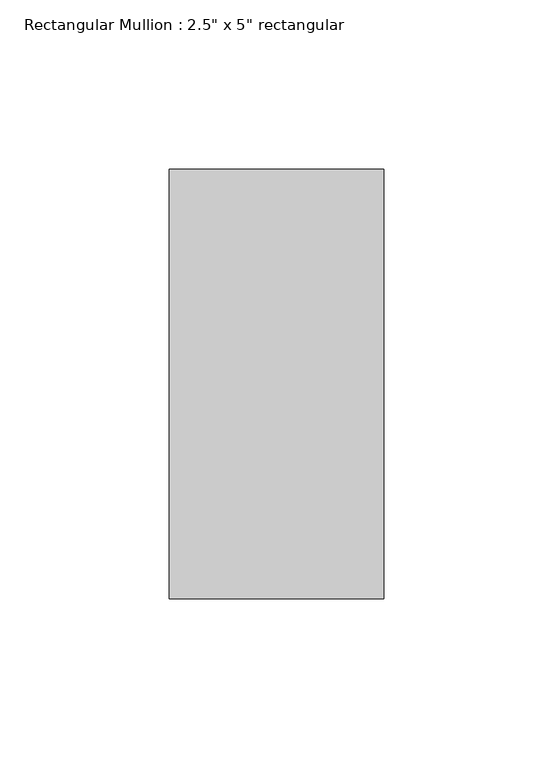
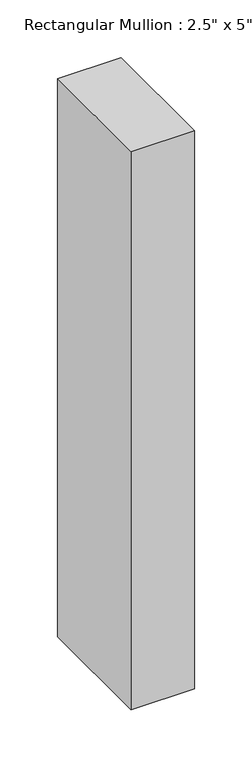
"""IFC4 building model written with IfcOpenShell, lengths in millimetres: member geometry."""

from ifc_helpers import new_model, si_unit, frame, origin, place, context, project, spatial, polyline, outline, extrude, source, transform, mapped, element, save


def member_29dce480(model_context):
    return source(origin(), model_context, "Body", "SweptSolid", [
        extrude(outline(polyline([(31.75, 63.5), (31.75, -63.5), (-31.75, -63.5), (-31.75, 63.5), (31.75, 63.5)])), frame((0.0, 0.0, -590.55), z_axis=(0.0, 0.0, 1.0), x_axis=(1.0, 0.0, 0.0)), (0.0, 0.0, 1.0), 590.55),
    ])


if __name__ == "__main__":
    model = new_model("IFC4")
    model_context = context("Model", 3, world=origin())
    ifc_project = project(units=[si_unit("LENGTHUNIT", "METRE", prefix="MILLI")], contexts=[model_context])
    site = spatial("IfcSite", under=ifc_project)
    building = spatial("IfcBuilding", under=site)
    placement = place(None, origin())
    member_shape = member_29dce480(model_context)
    element("IfcMember", 1, ObjectType="Rectangular Mullion : 2.5\" x 5\" rectangular", at=placement, inside=building, context=model_context, shape_type="MappedRepresentation", body=[
        mapped(member_shape, transform((0.0, 0.0, 0.0), x_axis=(1.0, 0.0, 0.0), y_axis=(0.0, 1.0, 0.0), z_axis=(0.0, 0.0, 1.0))),
    ])
    save(model, "model.ifc")
